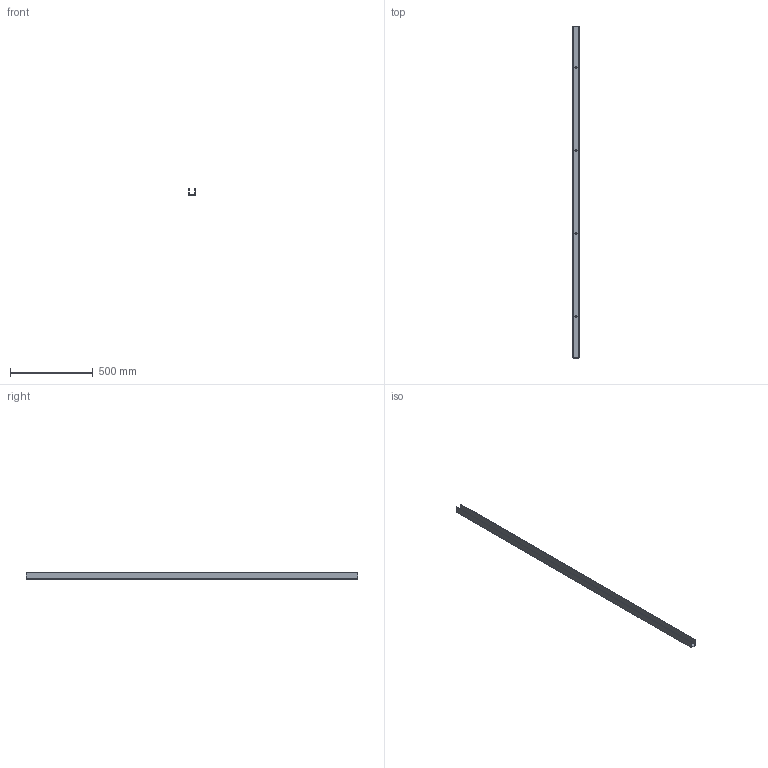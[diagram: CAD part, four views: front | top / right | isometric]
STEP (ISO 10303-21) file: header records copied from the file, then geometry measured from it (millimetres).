
FILE_DESCRIPTION(/* description */ ('Bodenfuehrungsschiene Nr.32 / 2m'),/* implementation_level */ '2;1');
FILE_NAME(/* name */ 'D:\Public\STP\010337126-TP.stp',/* time_stamp */ '2020-05-13T15:20:12+02:00',/* author */ ('H.Lesti'),/* organization */ (''),/* preprocessor_version */ 'ST-DEVELOPER v17.2',/* originating_system */ 'Autodesk Inventor 2019',/* authorisation */ '');
FILE_SCHEMA (('AUTOMOTIVE_DESIGN { 1 0 10303 214 3 1 1 }'));
Length unit declared in the file: millimetre
Products named in the file (1): 010337126
Bounding box: 40 x 2000 x 41.5 mm (x, y, z)
Volume: 670958.9 mm3; surface area: 460196.1 mm2
Topology: 1 solids, 1 shells, 51 faces, 120 edges, 76 vertices
Faces by surface type: plane 27, torus 8, cone 8, cylinder 8
Full cylindrical faces by diameter (mm): 6 x4
Entity records: 1535 total; most frequent: DIRECTION 284, CARTESIAN_POINT 248, ORIENTED_EDGE 240, EDGE_CURVE 120, AXIS2_PLACEMENT_3D 112, VERTEX_POINT 76, EDGE_LOOP 64, CIRCLE 60
